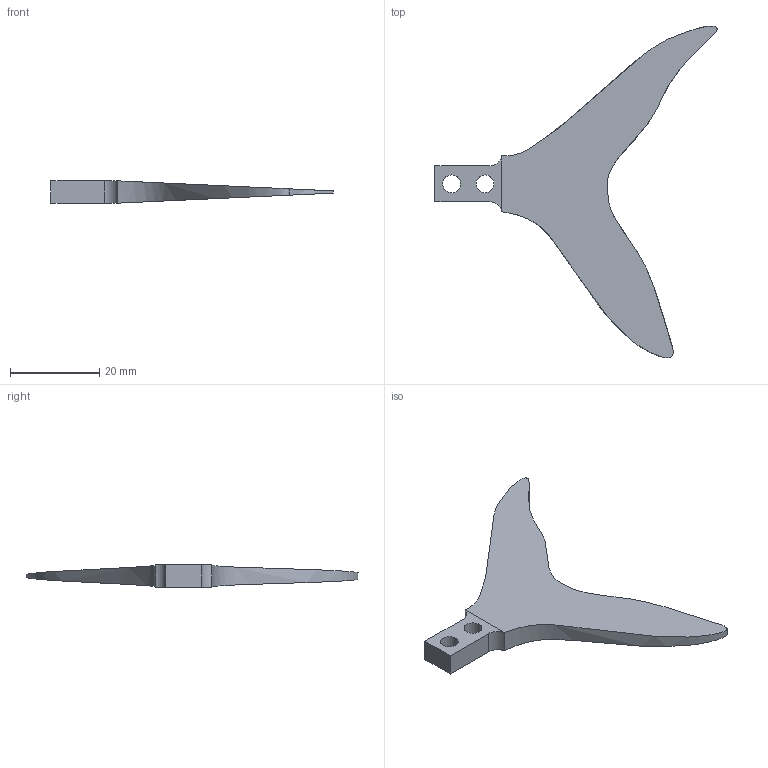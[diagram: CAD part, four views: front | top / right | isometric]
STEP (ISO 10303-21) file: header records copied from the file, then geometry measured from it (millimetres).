
FILE_DESCRIPTION(/* description */ (''),/* implementation_level */ '2;1');
FILE_NAME(/* name */ 'C:/Users/Diego/Downloads/9/Animalitos/Part3 v1.step',/* time_stamp */ '2019-06-14T13:37:26-04:00',/* author */ ('dcortesl1410'),/* organization */ (''),/* preprocessor_version */ 'ST-DEVELOPER v18',/* originating_system */ 'Autodesk Translation Framework v8.2.0.1029',/* authorisation */ '');
FILE_SCHEMA (('AUTOMOTIVE_DESIGN { 1 0 10303 214 3 1 1 }'));
Length unit declared in the file: millimetre
Products named in the file (1): Part3
Bounding box: 63.29 x 74.45 x 5 mm (x, y, z)
Volume: 4054.1 mm3; surface area: 3491.3 mm2
Topology: 1 solids, 1 shells, 12 faces, 26 edges, 16 vertices
Faces by surface type: plane 7, cylinder 4, bspline 1
Full cylindrical faces by diameter (mm): 4 x2
Entity records: 763 total; most frequent: CARTESIAN_POINT 458, DIRECTION 56, ORIENTED_EDGE 52, EDGE_CURVE 26, AXIS2_PLACEMENT_3D 20, EDGE_LOOP 16, LINE 16, VECTOR 16
